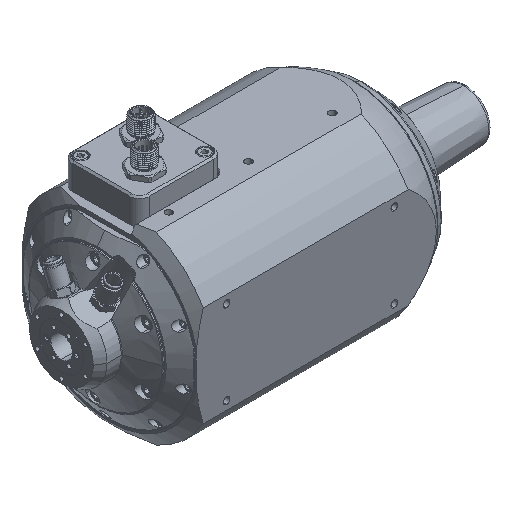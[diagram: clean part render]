
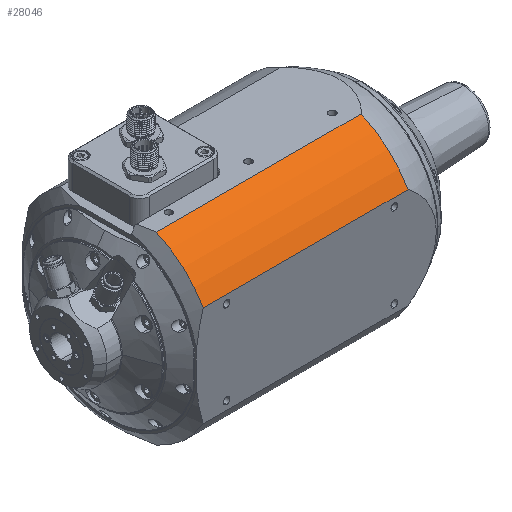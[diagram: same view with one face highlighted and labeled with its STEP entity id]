
A CAD part, isometric view. The second image highlights one B-rep face of the part: STEP entity #28046.
In plain terms, the highlighted cylindrical face has radius 60 mm (diameter 120 mm), a partial arc.
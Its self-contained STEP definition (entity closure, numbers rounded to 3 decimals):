
#4640 = EDGE_CURVE ( 'NONE', #81314, #7248, #84182, .T. ) ;
#5612 = LINE ( 'NONE', #26147, #25794 ) ;
#7086 = EDGE_CURVE ( 'NONE', #81314, #84735, #82819, .T. ) ;
#7248 = VERTEX_POINT ( 'NONE', #41173 ) ;
#12690 = DIRECTION ( 'NONE',  ( 1., 0., 0. ) ) ;
#14184 = DIRECTION ( 'NONE',  ( -1., 0., 0. ) ) ;
#14951 = VECTOR ( 'NONE', #14184, 1000. ) ;
#15481 = DIRECTION ( 'NONE',  ( 0., 0., 1. ) ) ;
#18452 = CARTESIAN_POINT ( 'NONE',  ( -140.959, -23.979, 55. ) ) ;
#25794 = VECTOR ( 'NONE', #47158, 1000. ) ;
#26147 = CARTESIAN_POINT ( 'NONE',  ( -145., -52., 29.933 ) ) ;
#26345 = CARTESIAN_POINT ( 'NONE',  ( -140.959, -52., 29.933 ) ) ;
#28046 = ADVANCED_FACE ( 'NONE', ( #58620 ), #67132, .T. ) ;
#33448 = CARTESIAN_POINT ( 'NONE',  ( -18.81, 0., 0. ) ) ;
#35080 = DIRECTION ( 'NONE',  ( -1., 0., 0. ) ) ;
#41173 = CARTESIAN_POINT ( 'NONE',  ( -18.81, -52., 29.933 ) ) ;
#41428 = EDGE_CURVE ( 'NONE', #74967, #84735, #78691, .T. ) ;
#45361 = ORIENTED_EDGE ( 'NONE', *, *, #50802, .T. ) ;
#47081 = DIRECTION ( 'NONE',  ( 0., -1., 0. ) ) ;
#47158 = DIRECTION ( 'NONE',  ( 1., 0., 0. ) ) ;
#47412 = ORIENTED_EDGE ( 'NONE', *, *, #4640, .F. ) ;
#48847 = AXIS2_PLACEMENT_3D ( 'NONE', #33448, #12690, #47081 ) ;
#50802 = EDGE_CURVE ( 'NONE', #74967, #7248, #5612, .T. ) ;
#52391 = DIRECTION ( 'NONE',  ( 0., 1., 0. ) ) ;
#54951 = CARTESIAN_POINT ( 'NONE',  ( -145., 0., 0. ) ) ;
#55200 = ORIENTED_EDGE ( 'NONE', *, *, #41428, .F. ) ;
#56123 = AXIS2_PLACEMENT_3D ( 'NONE', #73116, #85810, #52391 ) ;
#58620 = FACE_OUTER_BOUND ( 'NONE', #76835, .T. ) ;
#61630 = CARTESIAN_POINT ( 'NONE',  ( -18.81, -23.979, 55. ) ) ;
#61698 = AXIS2_PLACEMENT_3D ( 'NONE', #54951, #35080, #15481 ) ;
#67132 = CYLINDRICAL_SURFACE ( 'NONE', #61698, 60. ) ;
#67159 = ORIENTED_EDGE ( 'NONE', *, *, #7086, .T. ) ;
#73116 = CARTESIAN_POINT ( 'NONE',  ( -140.959, 0., 0. ) ) ;
#74967 = VERTEX_POINT ( 'NONE', #26345 ) ;
#75224 = CARTESIAN_POINT ( 'NONE',  ( -145., -23.979, 55. ) ) ;
#76835 = EDGE_LOOP ( 'NONE', ( #47412, #67159, #55200, #45361 ) ) ;
#78691 = CIRCLE ( 'NONE', #56123, 60. ) ;
#81314 = VERTEX_POINT ( 'NONE', #61630 ) ;
#82819 = LINE ( 'NONE', #75224, #14951 ) ;
#84182 = CIRCLE ( 'NONE', #48847, 60. ) ;
#84735 = VERTEX_POINT ( 'NONE', #18452 ) ;
#85810 = DIRECTION ( 'NONE',  ( -1., 0., 0. ) ) ;
